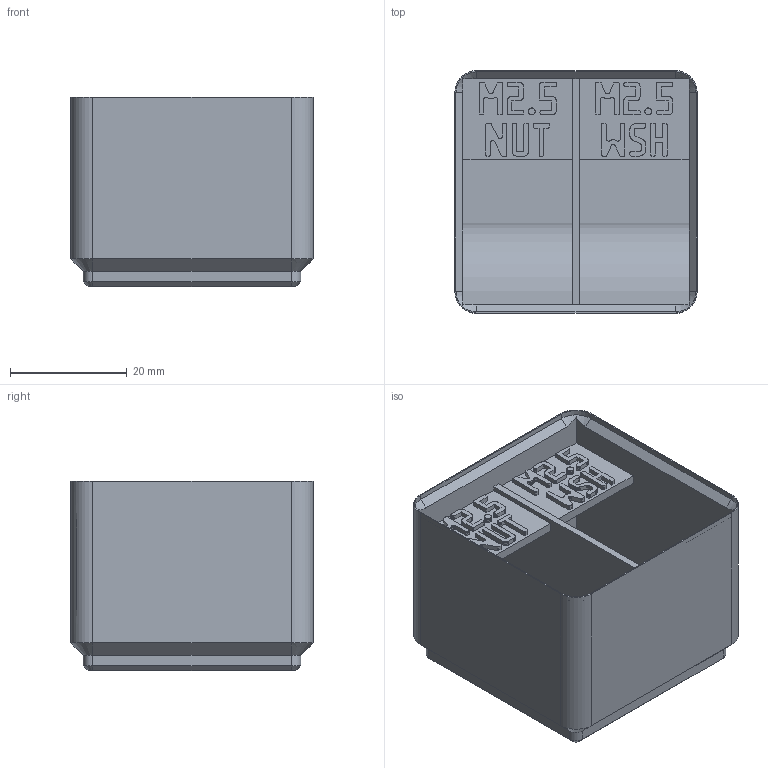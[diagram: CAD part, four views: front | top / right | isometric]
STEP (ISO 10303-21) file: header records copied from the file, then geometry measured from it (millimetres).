
FILE_DESCRIPTION(('Open CASCADE Model'),'2;1');
FILE_NAME('Open CASCADE Shape Model','2026-11-16T17:31:33',('Author'),( 'Open CASCADE'),'Open CASCADE STEP processor 8.0','build123d', 'Unknown');
FILE_SCHEMA(('AUTOMOTIVE_DESIGN { 1 0 10303 214 1 1 1 1 }'));
Products named in the file (1): SOLID
Bounding box: 41.5 x 41.5 x 32.4 mm (x, y, z)
Volume: 25468.7 mm3; surface area: 13482.7 mm2
Topology: 1 solids, 1 shells, 1432 faces, 4207 edges, 2794 vertices
Faces by surface type: plane 1406, cylinder 14, cone 12
Entity records: 98602 total; most frequent: CARTESIAN_POINT 19810, DIRECTION 12719, LINE 9753, VECTOR 9753, ORIENTED_EDGE 8414, PCURVE 8414, DEFINITIONAL_REPRESENTATION 8414, EDGE_CURVE 4207
